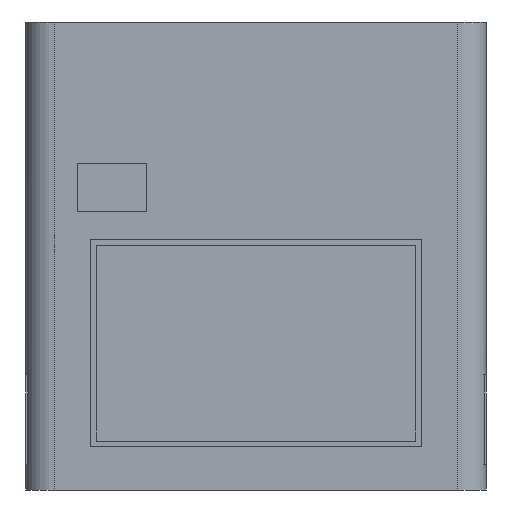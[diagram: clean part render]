
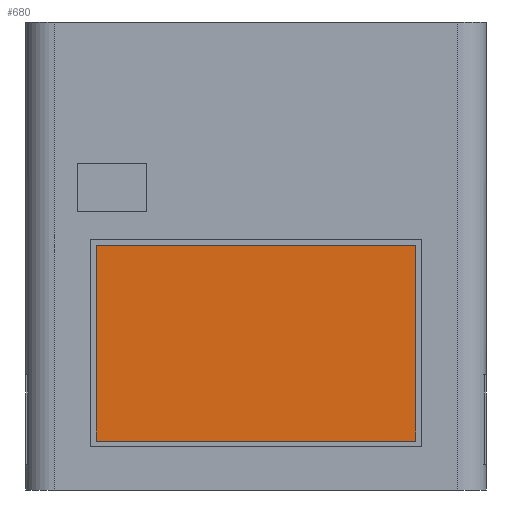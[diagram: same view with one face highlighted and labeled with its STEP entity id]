
A CAD part, left-side view. The second image highlights one B-rep face of the part: STEP entity #680.
In plain terms, the highlighted planar face has unit normal (-1, 0, 0).
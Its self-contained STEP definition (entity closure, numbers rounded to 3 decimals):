
#517 = PLANE('',#518);
#518 = AXIS2_PLACEMENT_3D('',#519,#520,#521);
#519 = CARTESIAN_POINT('',(-86.,44.4,28.));
#520 = DIRECTION('',(-0.,1.,0.));
#521 = DIRECTION('',(0.,0.,1.));
#545 = PLANE('',#546);
#546 = AXIS2_PLACEMENT_3D('',#547,#548,#549);
#547 = CARTESIAN_POINT('',(-86.,-46.,29.6));
#548 = DIRECTION('',(0.,0.,1.));
#549 = DIRECTION('',(1.,0.,-0.));
#573 = PLANE('',#574);
#574 = AXIS2_PLACEMENT_3D('',#575,#576,#577);
#575 = CARTESIAN_POINT('',(-86.,-44.4,28.));
#576 = DIRECTION('',(-0.,1.,0.));
#577 = DIRECTION('',(0.,0.,1.));
#599 = PLANE('',#600);
#600 = AXIS2_PLACEMENT_3D('',#601,#602,#603);
#601 = CARTESIAN_POINT('',(-86.,-46.,84.));
#602 = DIRECTION('',(0.,0.,1.));
#603 = DIRECTION('',(1.,0.,-0.));
#614 = EDGE_CURVE('',#615,#617,#619,.T.);
#615 = VERTEX_POINT('',#616);
#616 = CARTESIAN_POINT('',(-85.,44.4,84.));
#617 = VERTEX_POINT('',#618);
#618 = CARTESIAN_POINT('',(-85.,-44.4,84.));
#619 = SURFACE_CURVE('',#620,(#624,#630),.PCURVE_S1.);
#620 = LINE('',#621,#622);
#621 = CARTESIAN_POINT('',(-85.,-55.,84.));
#622 = VECTOR('',#623,1.);
#623 = DIRECTION('',(0.,-1.,0.));
#624 = PCURVE('',#599,#625);
#625 = DEFINITIONAL_REPRESENTATION('',(#626),#629);
#626 = B_SPLINE_CURVE_WITH_KNOTS('',1,(#627,#628),.UNSPECIFIED.,.F.,.F.,
  (2,2),(-99.4,-10.6),.PIECEWISE_BEZIER_KNOTS.);
#627 = CARTESIAN_POINT('',(1.,90.4));
#628 = CARTESIAN_POINT('',(1.,1.6));
#629 = ( GEOMETRIC_REPRESENTATION_CONTEXT(2) 
PARAMETRIC_REPRESENTATION_CONTEXT() REPRESENTATION_CONTEXT('2D SPACE',''
  ) );
#630 = PCURVE('',#631,#636);
#631 = PLANE('',#632);
#632 = AXIS2_PLACEMENT_3D('',#633,#634,#635);
#633 = CARTESIAN_POINT('',(-85.,-64.,16.));
#634 = DIRECTION('',(1.,0.,-0.));
#635 = DIRECTION('',(0.,0.,1.));
#636 = DEFINITIONAL_REPRESENTATION('',(#637),#640);
#637 = B_SPLINE_CURVE_WITH_KNOTS('',1,(#638,#639),.UNSPECIFIED.,.F.,.F.,
  (2,2),(-99.4,-10.6),.PIECEWISE_BEZIER_KNOTS.);
#638 = CARTESIAN_POINT('',(68.,-108.4));
#639 = CARTESIAN_POINT('',(68.,-19.6));
#640 = ( GEOMETRIC_REPRESENTATION_CONTEXT(2) 
PARAMETRIC_REPRESENTATION_CONTEXT() REPRESENTATION_CONTEXT('2D SPACE',''
  ) );
#680 = ADVANCED_FACE('',(#681),#631,.F.);
#681 = FACE_BOUND('',#682,.F.);
#682 = EDGE_LOOP('',(#683,#704,#705,#726));
#683 = ORIENTED_EDGE('',*,*,#684,.T.);
#684 = EDGE_CURVE('',#685,#615,#687,.T.);
#685 = VERTEX_POINT('',#686);
#686 = CARTESIAN_POINT('',(-85.,44.4,29.6));
#687 = SURFACE_CURVE('',#688,(#692,#698),.PCURVE_S1.);
#688 = LINE('',#689,#690);
#689 = CARTESIAN_POINT('',(-85.,44.4,22.));
#690 = VECTOR('',#691,1.);
#691 = DIRECTION('',(0.,0.,1.));
#692 = PCURVE('',#631,#693);
#693 = DEFINITIONAL_REPRESENTATION('',(#694),#697);
#694 = B_SPLINE_CURVE_WITH_KNOTS('',1,(#695,#696),.UNSPECIFIED.,.F.,.F.,
  (2,2),(7.6,62.),.PIECEWISE_BEZIER_KNOTS.);
#695 = CARTESIAN_POINT('',(13.6,-108.4));
#696 = CARTESIAN_POINT('',(68.,-108.4));
#697 = ( GEOMETRIC_REPRESENTATION_CONTEXT(2) 
PARAMETRIC_REPRESENTATION_CONTEXT() REPRESENTATION_CONTEXT('2D SPACE',''
  ) );
#698 = PCURVE('',#517,#699);
#699 = DEFINITIONAL_REPRESENTATION('',(#700),#703);
#700 = B_SPLINE_CURVE_WITH_KNOTS('',1,(#701,#702),.UNSPECIFIED.,.F.,.F.,
  (2,2),(7.6,62.),.PIECEWISE_BEZIER_KNOTS.);
#701 = CARTESIAN_POINT('',(1.6,1.));
#702 = CARTESIAN_POINT('',(56.,1.));
#703 = ( GEOMETRIC_REPRESENTATION_CONTEXT(2) 
PARAMETRIC_REPRESENTATION_CONTEXT() REPRESENTATION_CONTEXT('2D SPACE',''
  ) );
#704 = ORIENTED_EDGE('',*,*,#614,.T.);
#705 = ORIENTED_EDGE('',*,*,#706,.F.);
#706 = EDGE_CURVE('',#707,#617,#709,.T.);
#707 = VERTEX_POINT('',#708);
#708 = CARTESIAN_POINT('',(-85.,-44.4,29.6));
#709 = SURFACE_CURVE('',#710,(#714,#720),.PCURVE_S1.);
#710 = LINE('',#711,#712);
#711 = CARTESIAN_POINT('',(-85.,-44.4,22.));
#712 = VECTOR('',#713,1.);
#713 = DIRECTION('',(0.,0.,1.));
#714 = PCURVE('',#631,#715);
#715 = DEFINITIONAL_REPRESENTATION('',(#716),#719);
#716 = B_SPLINE_CURVE_WITH_KNOTS('',1,(#717,#718),.UNSPECIFIED.,.F.,.F.,
  (2,2),(7.6,62.),.PIECEWISE_BEZIER_KNOTS.);
#717 = CARTESIAN_POINT('',(13.6,-19.6));
#718 = CARTESIAN_POINT('',(68.,-19.6));
#719 = ( GEOMETRIC_REPRESENTATION_CONTEXT(2) 
PARAMETRIC_REPRESENTATION_CONTEXT() REPRESENTATION_CONTEXT('2D SPACE',''
  ) );
#720 = PCURVE('',#573,#721);
#721 = DEFINITIONAL_REPRESENTATION('',(#722),#725);
#722 = B_SPLINE_CURVE_WITH_KNOTS('',1,(#723,#724),.UNSPECIFIED.,.F.,.F.,
  (2,2),(7.6,62.),.PIECEWISE_BEZIER_KNOTS.);
#723 = CARTESIAN_POINT('',(1.6,1.));
#724 = CARTESIAN_POINT('',(56.,1.));
#725 = ( GEOMETRIC_REPRESENTATION_CONTEXT(2) 
PARAMETRIC_REPRESENTATION_CONTEXT() REPRESENTATION_CONTEXT('2D SPACE',''
  ) );
#726 = ORIENTED_EDGE('',*,*,#727,.F.);
#727 = EDGE_CURVE('',#685,#707,#728,.T.);
#728 = SURFACE_CURVE('',#729,(#733,#739),.PCURVE_S1.);
#729 = LINE('',#730,#731);
#730 = CARTESIAN_POINT('',(-85.,-55.,29.6));
#731 = VECTOR('',#732,1.);
#732 = DIRECTION('',(0.,-1.,0.));
#733 = PCURVE('',#631,#734);
#734 = DEFINITIONAL_REPRESENTATION('',(#735),#738);
#735 = B_SPLINE_CURVE_WITH_KNOTS('',1,(#736,#737),.UNSPECIFIED.,.F.,.F.,
  (2,2),(-99.4,-10.6),.PIECEWISE_BEZIER_KNOTS.);
#736 = CARTESIAN_POINT('',(13.6,-108.4));
#737 = CARTESIAN_POINT('',(13.6,-19.6));
#738 = ( GEOMETRIC_REPRESENTATION_CONTEXT(2) 
PARAMETRIC_REPRESENTATION_CONTEXT() REPRESENTATION_CONTEXT('2D SPACE',''
  ) );
#739 = PCURVE('',#545,#740);
#740 = DEFINITIONAL_REPRESENTATION('',(#741),#744);
#741 = B_SPLINE_CURVE_WITH_KNOTS('',1,(#742,#743),.UNSPECIFIED.,.F.,.F.,
  (2,2),(-99.4,-10.6),.PIECEWISE_BEZIER_KNOTS.);
#742 = CARTESIAN_POINT('',(1.,90.4));
#743 = CARTESIAN_POINT('',(1.,1.6));
#744 = ( GEOMETRIC_REPRESENTATION_CONTEXT(2) 
PARAMETRIC_REPRESENTATION_CONTEXT() REPRESENTATION_CONTEXT('2D SPACE',''
  ) );
